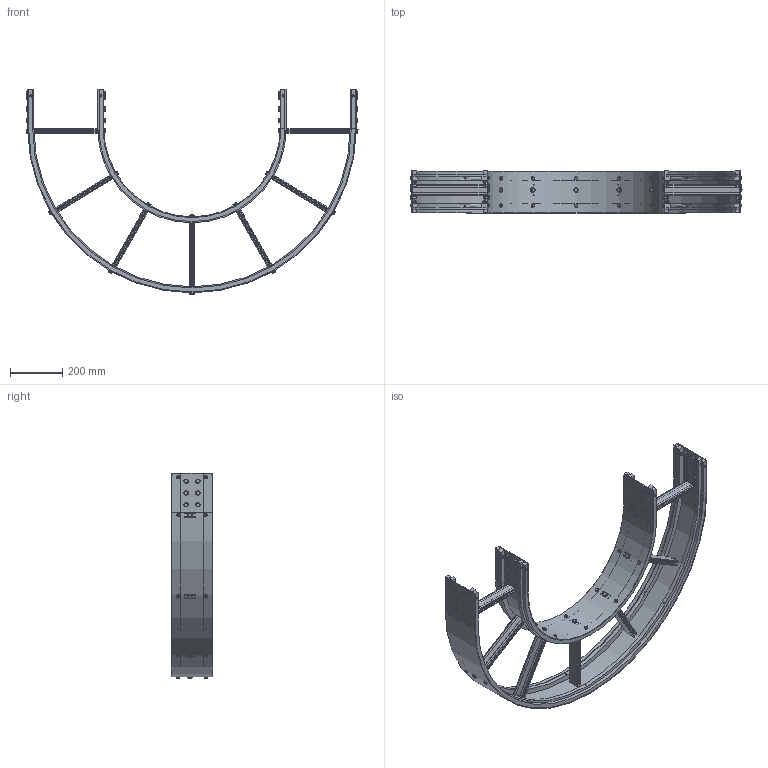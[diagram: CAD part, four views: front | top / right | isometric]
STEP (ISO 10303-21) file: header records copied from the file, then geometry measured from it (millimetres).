
FILE_DESCRIPTION (( 'STEP AP203' ), '1' );
FILE_NAME ('3000.250.418.STEP', '2018-02-28T10:51:40', ( 'Localadmin' ), ( 'Microsoft' ), 'SwSTEP 2.0', 'SolidWorks 2016', '' );
FILE_SCHEMA (( 'CONFIG_CONTROL_DESIGN' ));
Length unit declared in the file: millimetre
Products named in the file (13): 084.302.000 DADI ALUSIC 13x13-1_084.302.002; 3000.250.010; 3000.250.418; 084.101.004.XXXX_285<A macchina>; RONDELLE UNI 6592 INOX_8.4x18 UNI 6592 INOX; VITI TE UNI 5739 INOX_M8x20 UNI 5739 INOX; 084.302.060; RONDELLE UNI 6592 INOX_6.4x12.5 UNI 6592 INOX; 3000.250.011; VITI TE UNI 5739 INOX_M6x20 UNI 5739 INOX; 3000.250.012; 084.301.000 VITI ALUSIC_084.301.036; 3000.250.009_curva
Assembly tree (183 placements, depth 2):
  3000.250.418
    3000.250.011  x2
    3000.250.012  x2
    3000.250.009_curva
    3000.250.010
    084.101.004.XXXX_285<A macchina>  x7
    RONDELLE UNI 6592 INOX_8.4x18 UNI 6592 INOX  x38
    VITI TE UNI 5739 INOX_M8x20 UNI 5739 INOX  x38
    084.302.060  x6
    RONDELLE UNI 6592 INOX_6.4x12.5 UNI 6592 INOX  x36
    VITI TE UNI 5739 INOX_M6x20 UNI 5739 INOX  x36
    084.301.000 VITI ALUSIC_084.301.036  x8
    084.302.000 DADI ALUSIC 13x13-1_084.302.002  x8
Bounding box: 1270.92 x 160 x 785.43 mm (x, y, z)
Volume: 6622274.6 mm3; surface area: 2739189.9 mm2
Topology: 183 solids, 183 shells, 2848 faces, 6480 edges, 4096 vertices
Faces by surface type: plane 1290, cylinder 886, cone 624, torus 48
Entity records: 26975 total; most frequent: CARTESIAN_POINT 9596, DIRECTION 2408, ORIENTED_EDGE 2236, EDGE_CURVE 1118, AXIS2_PLACEMENT_3D 936, VERTEX_POINT 728, EDGE_LOOP 640, VECTOR 536
